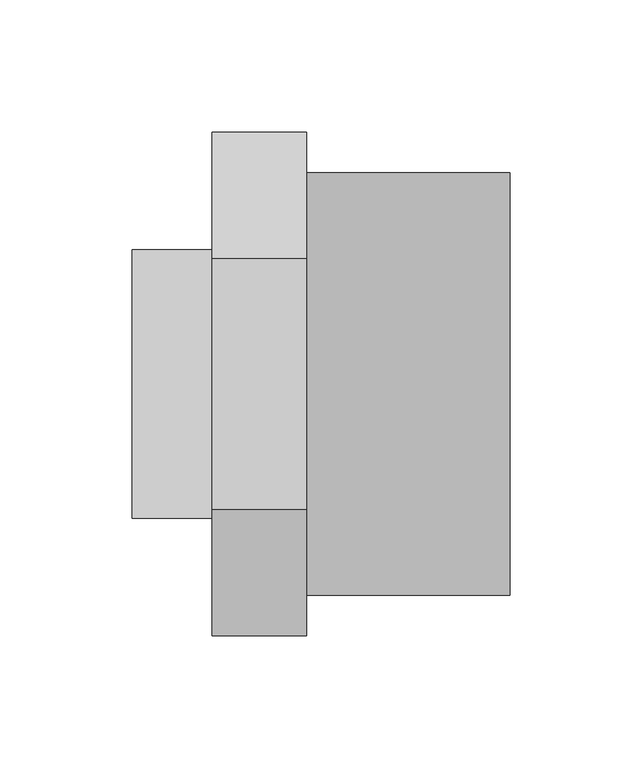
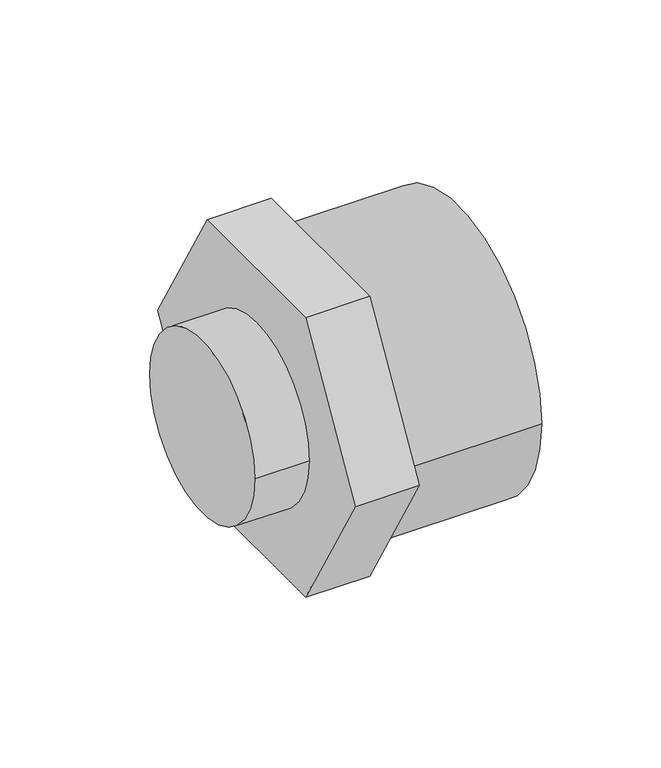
"""IFC4 building model written with IfcOpenShell, lengths in millimetres: pipe fitting geometry, 01101081 : Mamelons de réduction multiple FxMxM."""

from ifc_helpers import new_model, si_unit, point, frame, origin, origin_2d, place, context, project, spatial, polyline, circle_curve, trimmed, segment, composite_curve, outline, extrude, source, transform, mapped, element, save


def pipe_fitting_51b2650d(model_context):
    return source(origin(), model_context, "Body", "SweptSolid", [
        extrude(outline(composite_curve([segment(trimmed(circle_curve(origin_2d(), 50.8), [point((50.8, 0.0))], [point((-50.8, 0.0))], False, "CARTESIAN"), True, "CONTINUOUS"), segment(trimmed(circle_curve(origin_2d(), 50.8), [point((-50.8, 0.0))], [point((50.8, 0.0))], False, "CARTESIAN"), True, "CONTINUOUS")], self_intersect=False)), frame((0.0, 0.0, 0.0), z_axis=(1.0, 0.0, 0.0), x_axis=(0.0, 1.0, 0.0)), (0.0, 0.0, 1.0), 30.25),
        extrude(outline(polyline([(-47.6313972, 82.5), (47.6313972, 82.5), (95.2627944, 0.0), (47.6313972, -82.5), (-47.6313972, -82.5), (-95.2627944, 0.0), (-47.6313972, 82.5)])), frame((30.25, 0.0, 0.0), z_axis=(1.0, 0.0, 0.0), x_axis=(0.0, 1.0, 0.0)), (0.0, 0.0, 1.0), 35.75),
        extrude(outline(composite_curve([segment(trimmed(circle_curve(origin_2d(), 80.0), [point((-80.0, 0.0))], [point((80.0, 0.0))], False, "CARTESIAN"), True, "CONTINUOUS"), segment(trimmed(circle_curve(origin_2d(), 80.0), [point((80.0, 0.0))], [point((-80.0, 0.0))], False, "CARTESIAN"), True, "CONTINUOUS")], self_intersect=False)), frame((66.0, 0.0, 0.0), z_axis=(1.0, 0.0, 0.0), x_axis=(0.0, 1.0, 0.0)), (0.0, 0.0, 1.0), 77.0),
    ])


if __name__ == "__main__":
    model = new_model("IFC4")
    model_context = context("Model", 3, world=origin())
    ifc_project = project(units=[si_unit("LENGTHUNIT", "METRE", prefix="MILLI")], contexts=[model_context])
    site = spatial("IfcSite", under=ifc_project)
    building = spatial("IfcBuilding", under=site)
    placement = place(None, origin())
    pipe_fitting_shape = pipe_fitting_51b2650d(model_context)
    element("IfcPipeFitting", 1, ObjectType="01101081 : Mamelons de réduction multiple FxMxM", at=placement, inside=building, context=model_context, shape_type="MappedRepresentation", body=[
        mapped(pipe_fitting_shape, transform((0.0, 0.0, 0.0), x_axis=(1.0, 0.0, 0.0), y_axis=(0.0, 1.0, 0.0), z_axis=(0.0, 0.0, 1.0))),
    ])
    save(model, "model.ifc")
